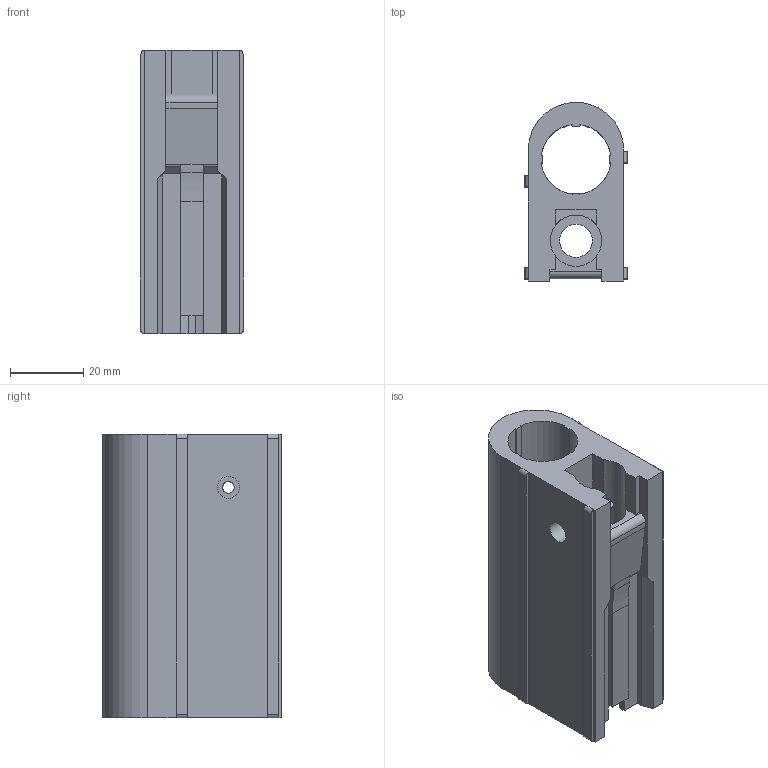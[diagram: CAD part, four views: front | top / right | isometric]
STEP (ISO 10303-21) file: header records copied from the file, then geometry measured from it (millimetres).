
FILE_DESCRIPTION(/* description */ (''),/* implementation_level */ '2;1');
FILE_NAME(/* name */ 'D:/Pew Pews/FGC-9_MkII_Stingray_Edition/Stingray Edition/.step files/1 - Upper/Bolt Housing.step',/* time_stamp */ '2022-05-11T21:16:35-06:00',/* author */ (''),/* organization */ (''),/* preprocessor_version */ 'ST-DEVELOPER v18.1',/* originating_system */ 'Autodesk Translation Framework v10.10.0.1391',/* authorisation */ '');
FILE_SCHEMA (('AUTOMOTIVE_DESIGN { 1 0 10303 214 3 1 1 }'));
Length unit declared in the file: millimetre
Products named in the file (1): Bolt Housing
Bounding box: 27.82 x 48.67 x 77.19 mm (x, y, z)
Volume: 45816 mm3; surface area: 21201.5 mm2
Topology: 1 solids, 1 shells, 98 faces, 269 edges, 174 vertices
Faces by surface type: plane 70, cylinder 28
Full cylindrical faces by diameter (mm): 3.2 x2, 6 x1, 9 x1, 9.5 x1, 14 x1
Entity records: 3207 total; most frequent: CARTESIAN_POINT 614, ORIENTED_EDGE 538, DIRECTION 525, EDGE_CURVE 269, LINE 203, VECTOR 203, VERTEX_POINT 174, AXIS2_PLACEMENT_3D 161
